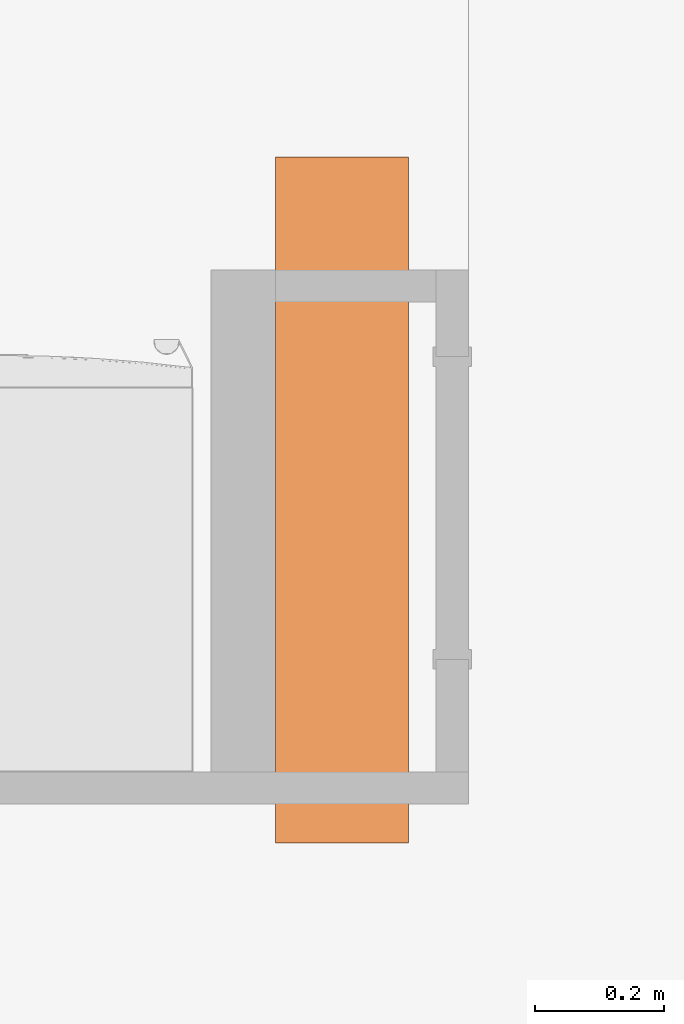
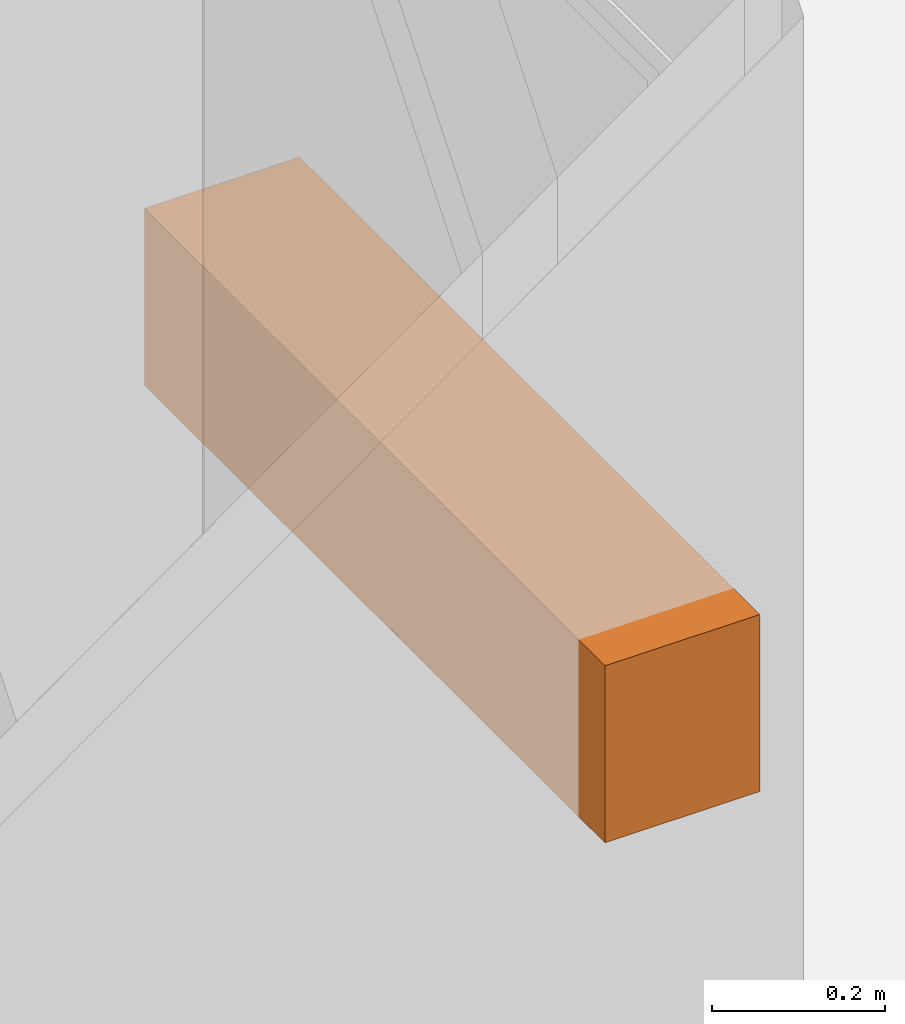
# One storey, part 81 of 81: 1 proxy.
"""IFC2X3 building model written with IfcOpenShell, lengths in metres."""

from ifc_helpers import new_model, entity, si_unit, converted_unit, derived_unit, direction, frame, origin, place, context, subcontext, project, spatial, faceted_brep, source, transform, mapped, material, type_object, type_shapes, element, save


model = new_model("IFC2X3")

# Units and contexts
model_context = context("Model", 3, precision=1e-05, world=origin(), true_north=direction((6.12303176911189e-17, 1.0)))
body_context = subcontext(model_context, "Body", "Model", "MODEL_VIEW")
ifc_project = project(units=[si_unit("LENGTHUNIT", "METRE"), si_unit("AREAUNIT", "SQUARE_METRE"), si_unit("VOLUMEUNIT", "CUBIC_METRE"), converted_unit("PLANEANGLEUNIT", "DEGREE", entity("IfcRatioMeasure", 0.0174532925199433), si_unit("PLANEANGLEUNIT", "RADIAN"), dimensions=[0, 0, 0, 0, 0, 0, 0]), si_unit("MASSUNIT", "GRAM", prefix="KILO"), derived_unit("MASSDENSITYUNIT", [(si_unit("MASSUNIT", "GRAM", prefix="KILO"), 1), (si_unit("LENGTHUNIT", "METRE"), -3)]), derived_unit("MOMENTOFINERTIAUNIT", [(si_unit("LENGTHUNIT", "METRE"), 4)]), si_unit("TIMEUNIT", "SECOND"), si_unit("FREQUENCYUNIT", "HERTZ"), si_unit("THERMODYNAMICTEMPERATUREUNIT", "DEGREE_CELSIUS"), derived_unit("THERMALTRANSMITTANCEUNIT", [(si_unit("MASSUNIT", "GRAM", prefix="KILO"), 1), (si_unit("THERMODYNAMICTEMPERATUREUNIT", "KELVIN"), -1), (si_unit("TIMEUNIT", "SECOND"), -3)]), derived_unit("VOLUMETRICFLOWRATEUNIT", [(si_unit("LENGTHUNIT", "METRE"), 3), (si_unit("TIMEUNIT", "SECOND"), -1)]), si_unit("ELECTRICCURRENTUNIT", "AMPERE"), si_unit("ELECTRICVOLTAGEUNIT", "VOLT"), si_unit("POWERUNIT", "WATT"), si_unit("FORCEUNIT", "NEWTON", prefix="KILO"), si_unit("ILLUMINANCEUNIT", "LUX"), si_unit("LUMINOUSFLUXUNIT", "LUMEN"), si_unit("LUMINOUSINTENSITYUNIT", "CANDELA"), derived_unit("USERDEFINED", [(si_unit("MASSUNIT", "GRAM", prefix="KILO"), -1), (si_unit("LENGTHUNIT", "METRE"), -2), (si_unit("TIMEUNIT", "SECOND"), 3), (si_unit("LUMINOUSFLUXUNIT", "LUMEN"), 1)]), derived_unit("LINEARVELOCITYUNIT", [(si_unit("LENGTHUNIT", "METRE"), 1), (si_unit("TIMEUNIT", "SECOND"), -1)]), si_unit("PRESSUREUNIT", "PASCAL"), derived_unit("USERDEFINED", [(si_unit("LENGTHUNIT", "METRE"), -2), (si_unit("MASSUNIT", "GRAM", prefix="KILO"), 1), (si_unit("TIMEUNIT", "SECOND"), -2)]), derived_unit("LINEARFORCEUNIT", [(si_unit("MASSUNIT", "GRAM", prefix="KILO"), 1), (si_unit("LENGTHUNIT", "METRE"), 1), (si_unit("TIMEUNIT", "SECOND"), -2), (si_unit("LENGTHUNIT", "METRE"), -1)]), derived_unit("PLANARFORCEUNIT", [(si_unit("MASSUNIT", "GRAM", prefix="KILO"), 1), (si_unit("LENGTHUNIT", "METRE"), 1), (si_unit("TIMEUNIT", "SECOND"), -2), (si_unit("LENGTHUNIT", "METRE"), -2)])], contexts=[model_context])

# Site, building, storey
site_placement = place(None, origin())
site = spatial("IfcSite", under=ifc_project, at=site_placement, Name="Surface", CompositionType="ELEMENT")
building_placement = place(site_placement, origin())
building = spatial("IfcBuilding", under=site, at=building_placement, CompositionType="ELEMENT")
storey_placement = place(building_placement, origin())
storey = spatial("IfcBuildingStorey", under=building, at=storey_placement, Name="01 RDC", CompositionType="ELEMENT", Elevation=-1.94916083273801e-14)

# Proxy
ifc_material = material(Name="Zone d'installation")
building_element_proxy_type = type_object("IfcBuildingElementProxyType", Name="Electrical_Distribution_Legrand_Coffrets-isolants-Drivia-pour-de-tableaux-electriques-de-1-a-4-rangees-de-18-modules_FR:coffret DRIVIA 18 modules 1 rangée", PredefinedType="NOTDEFINED", material=ifc_material)
shared_shape = source(origin(), body_context, "Body", "Brep", [
    faceted_brep([(-0.159391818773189, -0.0157999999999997, 0.000230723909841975), (-0.159391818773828, 0.0, 0.000230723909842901), (0.0, 0.0, 0.0), (0.0, -0.1035, 0.0), (-0.159391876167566, -0.1035, 0.000230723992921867), (0.159391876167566, -0.1035, 0.000230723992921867), (0.159391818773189, 0.0, 0.000230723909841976), (0.159391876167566, -0.0157999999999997, 0.000230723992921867), (0.159391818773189, -0.0157999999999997, 0.249769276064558), (0.159391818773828, 0.0, 0.249769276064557), (0.0, 0.0, 0.2499999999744), (0.0, -0.1035, 0.2499999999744), (0.159391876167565, -0.1035, 0.249769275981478), (-0.159391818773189, 0.0, 0.249769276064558), (-0.159391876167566, -0.0157999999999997, 0.249769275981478), (-0.159391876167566, -0.1035, 0.249769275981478), (-3.6187750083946e-06, 0.0, 0.00250000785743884), (-0.159388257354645, 0.0, 0.0027307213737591), (-0.159388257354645, -0.101, 0.0027307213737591), (-3.61882808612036e-06, -0.101, 0.00250000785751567), (0.159388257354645, 0.0, 0.00273072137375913), (0.159388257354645, -0.101, 0.00273072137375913), (0.159388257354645, -0.101, 0.247269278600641), (3.61882808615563e-06, -0.101, 0.247499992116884), (3.61877500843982e-06, 0.0, 0.247499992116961), (0.159388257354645, 0.0, 0.247269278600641), (-0.159388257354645, -0.101, 0.247269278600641), (-0.159388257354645, 0.0, 0.247269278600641), (-0.174999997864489, -0.0053499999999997, 0.124998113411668), (-0.174929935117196, -0.0053499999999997, 0.0321546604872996), (-0.177429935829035, -0.0053499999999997, 0.0321546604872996), (-0.1775, -0.0053499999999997, 0.1249999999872), (-0.177429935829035, -0.0053499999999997, 0.2178453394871), (-0.174929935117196, -0.0053499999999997, 0.2178453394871), (0.177429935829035, -0.0053499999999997, 0.2178453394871), (0.177499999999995, -0.0053499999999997, 0.1249999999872), (0.17742993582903, -0.0053499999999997, 0.0321546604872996), (0.174929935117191, -0.0053499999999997, 0.0321546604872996), (0.175000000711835, -0.0053499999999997, 0.124998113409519), (0.174929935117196, -0.0053499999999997, 0.2178453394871), (-0.177429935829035, -0.0157999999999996, 0.0321546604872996), (-0.177408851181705, -0.0157999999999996, 0.00421439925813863), (-0.177408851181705, -0.1035, 0.00421439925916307), (-0.1775, -0.1035, 0.1249999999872), (0.177499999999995, -0.1035, 0.1249999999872), (0.1774088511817, -0.1035, 0.0042143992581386), (0.177408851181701, -0.0157999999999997, 0.00421439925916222), (0.17742993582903, -0.0157999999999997, 0.0321546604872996), (0.177429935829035, -0.0157999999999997, 0.2178453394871), (0.177408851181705, -0.0157999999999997, 0.245785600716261), (0.177408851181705, -0.1035, 0.245785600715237), (-0.177429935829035, -0.0157999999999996, 0.2178453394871), (-0.177408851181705, -0.1035, 0.245785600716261), (-0.177408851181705, -0.0157999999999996, 0.245785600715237), (-0.174999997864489, -0.101, 0.124998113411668), (-0.17491008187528, -0.101, 0.00584619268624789), (-0.17491008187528, -0.0157999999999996, 0.00584619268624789), (-0.174929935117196, -0.0157999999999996, 0.0321546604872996), (0.174929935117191, -0.0157999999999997, 0.0321546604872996), (0.174910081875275, -0.0157999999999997, 0.0058461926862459), (0.174910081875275, -0.101, 0.0058461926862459), (0.174999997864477, -0.101, 0.124998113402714), (0.174929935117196, -0.0157999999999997, 0.2178453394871), (0.17491008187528, -0.101, 0.244153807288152), (0.17491008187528, -0.0157999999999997, 0.244153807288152), (-0.174929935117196, -0.0157999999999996, 0.2178453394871), (-0.17491008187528, -0.101, 0.244153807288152), (-0.17491008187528, -0.0157999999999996, 0.244153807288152), (-0.168616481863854, -0.1035, 0.248754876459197), (-0.168616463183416, -0.0157999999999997, 0.248754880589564), (0.168616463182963, -0.0157999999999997, 0.248754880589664), (0.168616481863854, -0.1035, 0.248754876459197), (0.168616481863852, -0.1035, 0.0012451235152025), (0.168616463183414, -0.0157999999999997, 0.00124511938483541), (-0.168616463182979, -0.0157999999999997, 0.00124511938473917), (-0.168616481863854, -0.1035, 0.00124512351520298), (-0.167304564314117, -0.0157999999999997, 0.00352330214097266), (-0.15939181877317, -0.0157999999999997, 0.00273072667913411), (0.167304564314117, -0.0157999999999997, 0.246476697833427), (0.15939181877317, -0.0157999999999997, 0.247269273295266), (0.15939181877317, -0.0157999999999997, 0.00273072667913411), (0.167304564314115, -0.0157999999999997, 0.00352330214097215), (-0.15939181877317, -0.0157999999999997, 0.247269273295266), (-0.167304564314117, -0.0157999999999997, 0.246476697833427), (-0.167302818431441, -0.101, 0.00352295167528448), (-0.162, -0.101, 0.1018499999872), (-0.162, -0.101, 0.1481499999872), (-0.167302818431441, -0.101, 0.246477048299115), (0.162, -0.101, 0.1481499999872), (0.167302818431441, -0.101, 0.246477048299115), (0.162, -0.101, 0.1018499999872), (0.167302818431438, -0.101, 0.00352295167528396), (-0.162, -0.1035, 0.1018499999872), (0.162, -0.1035, 0.1018499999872), (0.162, -0.1035, 0.1481499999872), (-0.162, -0.1035, 0.1481499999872)], [[[0, 1, 2, 3, 4]], [[5, 3, 2, 6, 7]], [[8, 9, 10, 11, 12]], [[10, 13, 14, 15, 11]], [[16, 17, 18, 19]], [[20, 16, 19, 21]], [[22, 23, 24, 25]], [[23, 26, 27, 24]], [[28, 29, 30, 31, 32, 33]], [[34, 35, 36, 37, 38, 39]], [[24, 27, 13, 10, 9, 25]], [[17, 16, 20, 6, 2, 1]], [[40, 41, 42, 43, 31, 30]], [[44, 45, 46, 47, 36, 35]], [[35, 34, 48, 49, 50, 44]], [[51, 32, 31, 43, 52, 53]], [[54, 55, 56, 57, 29, 28]], [[58, 59, 60, 61]], [[38, 58, 61]], [[58, 38, 37]], [[62, 39, 38]], [[62, 63, 64]], [[62, 61, 63]], [[61, 62, 38]], [[28, 33, 65, 54]], [[66, 54, 65]], [[67, 66, 65]], [[52, 68, 53]], [[53, 68, 69]], [[69, 15, 14]], [[15, 69, 68]], [[12, 70, 8]], [[70, 12, 71]], [[71, 50, 49]], [[71, 49, 70]], [[46, 45, 72]], [[46, 72, 73]], [[73, 5, 7]], [[5, 73, 72]], [[0, 4, 74]], [[74, 4, 75]], [[75, 42, 41]], [[75, 41, 74]], [[0, 74, 41, 40, 57, 56, 76, 77]], [[48, 62, 64, 78, 79, 8, 70, 49]], [[46, 73, 7, 80, 81, 59, 58, 47]], [[82, 83, 67, 65, 51, 53, 69, 14]], [[17, 1, 0]], [[0, 77, 17]], [[57, 40, 30, 29]], [[47, 58, 37, 36]], [[8, 25, 9]], [[25, 8, 79]], [[34, 39, 62, 48]], [[33, 32, 51, 65]], [[80, 6, 20]], [[6, 80, 7]], [[13, 27, 82]], [[82, 14, 13]], [[18, 84, 55]], [[55, 85, 18]], [[19, 18, 85]], [[54, 85, 55]], [[86, 85, 54]], [[86, 54, 66]], [[86, 66, 26]], [[87, 26, 66]], [[86, 26, 23]], [[86, 23, 88]], [[88, 23, 22]], [[88, 22, 63]], [[22, 89, 63]], [[61, 88, 63]], [[88, 61, 90]], [[90, 61, 60]], [[60, 21, 90]], [[91, 21, 60]], [[21, 19, 90]], [[19, 85, 90]], [[42, 75, 4]], [[4, 92, 42]], [[42, 92, 43]], [[92, 4, 3]], [[3, 93, 92]], [[93, 3, 5]], [[93, 5, 45]], [[45, 5, 72]], [[45, 44, 93]], [[93, 44, 94]], [[50, 94, 44]], [[50, 12, 94]], [[50, 71, 12]], [[12, 11, 94]], [[95, 94, 11]], [[11, 15, 95]], [[15, 52, 95]], [[52, 15, 68]], [[52, 43, 95]], [[43, 92, 95]], [[90, 85, 92, 93]], [[95, 92, 85, 86]], [[88, 90, 93, 94]], [[95, 86, 88, 94]]]),
    faceted_brep([(0.159391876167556, -0.0157999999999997, 0.0321546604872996), (0.159391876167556, -0.0157999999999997, 0.000230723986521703), (0.168616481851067, -0.0157999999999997, 0.00124512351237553), (0.17740885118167, -0.0157999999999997, 0.00421439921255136), (0.177429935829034, -0.0157999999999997, 0.0321546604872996), (0.159391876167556, -0.0157999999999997, 0.249769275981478), (0.159391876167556, -0.0157999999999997, 0.2178453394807), (0.177429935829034, -0.0157999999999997, 0.2178453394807), (0.177408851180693, -0.0157999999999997, 0.245785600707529), (0.168616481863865, -0.0157999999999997, 0.248754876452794), (0.177429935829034, -0.00534999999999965, 0.0321546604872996), (0.159391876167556, -0.00534999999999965, 0.0321546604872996), (0.177408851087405, -0.00534999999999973, 0.245785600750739), (0.17397064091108, -0.00534999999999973, 0.24720103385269), (0.170423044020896, -0.00534999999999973, 0.248314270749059), (0.166792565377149, -0.00534999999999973, 0.249116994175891), (0.163106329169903, -0.00534999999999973, 0.249603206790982), (0.159391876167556, 0.0, 0.249769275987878), (0.159391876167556, -0.00534999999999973, 0.249769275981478), (0.159391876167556, -0.00534999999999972, 0.2178453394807), (0.177429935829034, -0.00534999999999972, 0.2178453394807), (0.177429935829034, 0.0, 0.0321546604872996), (0.177408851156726, 0.0, 0.00421439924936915), (0.168616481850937, 0.0, 0.00124512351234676), (0.159391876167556, 0.0, 0.000230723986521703), (0.159391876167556, 0.0, 0.0032307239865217), (0.127529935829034, 0.0, 0.00323072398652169), (0.127529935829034, 0.0, 0.246769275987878), (0.159391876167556, 0.0, 0.246769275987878), (0.168616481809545, 0.0, 0.248754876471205), (0.177408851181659, 0.0, 0.245785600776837), (0.177429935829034, 0.0, 0.2178453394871), (0.159391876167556, -0.00534999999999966, 0.00323072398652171), (0.127529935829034, -0.00534999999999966, 0.00323072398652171), (0.127529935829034, -0.00534999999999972, 0.246769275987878), (0.159391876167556, -0.00534999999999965, 0.246769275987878)], [[[0, 1, 2, 3, 4]], [[5, 6, 7, 8, 9]], [[10, 11, 0, 4]], [[12, 13, 8]], [[9, 13, 14]], [[13, 9, 8]], [[15, 16, 9]], [[16, 5, 9]], [[5, 16, 17, 18]], [[15, 9, 14]], [[6, 19, 20, 7]], [[21, 22, 23, 24, 25, 26, 27, 28, 17, 29, 30, 31]], [[32, 33, 26, 25]], [[26, 33, 34, 27]], [[28, 27, 34, 35]], [[17, 16, 29]], [[16, 15, 29]], [[13, 12, 30]], [[14, 13, 29]], [[14, 29, 15]], [[29, 13, 30]], [[20, 10, 21, 31]], [[11, 10, 20, 19, 35, 34, 33, 32]], [[8, 7, 20]], [[8, 20, 12]], [[12, 31, 30]], [[31, 12, 20]], [[35, 19, 6, 5, 18, 17, 28]], [[32, 25, 24, 1, 0, 11]], [[10, 22, 21]], [[4, 3, 10]], [[22, 10, 3]], [[1, 24, 23, 2]], [[23, 22, 3]], [[23, 3, 2]]]),
    faceted_brep([(-0.177429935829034, -0.00534999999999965, 0.0321546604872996), (-0.177429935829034, -0.0157999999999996, 0.0321546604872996), (-0.159391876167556, -0.0157999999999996, 0.0321546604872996), (-0.159391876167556, -0.00534999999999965, 0.0321546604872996), (-0.177408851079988, -0.0157999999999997, 0.00421439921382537), (-0.168616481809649, -0.0157999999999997, 0.00124512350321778), (-0.159391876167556, -0.0157999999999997, 0.000230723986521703), (-0.177408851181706, -0.0157999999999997, 0.24578560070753), (-0.177429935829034, -0.0157999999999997, 0.2178453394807), (-0.159391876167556, -0.0157999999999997, 0.2178453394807), (-0.159391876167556, -0.0157999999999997, 0.249769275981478), (-0.168616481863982, -0.0157999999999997, 0.248754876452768), (-0.177429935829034, -0.00534999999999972, 0.2178453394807), (-0.159391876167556, -0.00534999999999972, 0.2178453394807), (-0.159391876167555, -0.00534999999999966, 0.249769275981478), (-0.159391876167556, 0.0, 0.249769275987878), (-0.1631063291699, -0.00534999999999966, 0.249603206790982), (-0.166792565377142, -0.00534999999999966, 0.249116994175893), (-0.170423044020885, -0.00534999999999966, 0.248314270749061), (-0.173970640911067, -0.00534999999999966, 0.247201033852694), (-0.177408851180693, -0.00534999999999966, 0.245785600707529), (-0.159391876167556, 0.0, 0.0032307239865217), (-0.159391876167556, 0.0, 0.000230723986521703), (-0.168616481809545, 0.0, 0.00124512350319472), (-0.177408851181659, 0.0, 0.00421439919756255), (-0.177429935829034, 0.0, 0.0321546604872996), (-0.177429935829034, 0.0, 0.2178453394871), (-0.177408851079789, 0.0, 0.245785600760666), (-0.168616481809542, 0.0, 0.248754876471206), (-0.159391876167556, 0.0, 0.246769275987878), (-0.127529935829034, 0.0, 0.246769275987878), (-0.127529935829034, 0.0, 0.0032307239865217), (-0.159391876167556, -0.00534999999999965, 0.246769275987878), (-0.127529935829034, -0.00534999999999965, 0.246769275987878), (-0.127529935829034, -0.00534999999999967, 0.0032307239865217), (-0.159391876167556, -0.00534999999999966, 0.00323072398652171)], [[[0, 1, 2, 3]], [[1, 4, 5, 6, 2]], [[7, 8, 9, 10, 11]], [[8, 12, 13, 9]], [[14, 15, 16, 10]], [[11, 16, 17]], [[16, 11, 10]], [[18, 19, 11]], [[19, 7, 11]], [[7, 19, 20]], [[18, 11, 17]], [[21, 22, 23, 24, 25, 26, 27, 28, 15, 29, 30, 31]], [[26, 25, 0, 12]], [[27, 19, 28]], [[27, 20, 19]], [[19, 18, 28]], [[17, 16, 28]], [[17, 28, 18]], [[28, 16, 15]], [[30, 29, 32, 33]], [[33, 34, 31, 30]], [[34, 35, 21, 31]], [[13, 12, 0, 3, 35, 34, 33, 32]], [[10, 9, 13, 32, 29, 15, 14]], [[2, 6, 22, 21, 35, 3]], [[12, 8, 7, 20]], [[20, 27, 12]], [[26, 12, 27]], [[4, 23, 5]], [[23, 4, 24]], [[23, 22, 6, 5]], [[25, 24, 0]], [[0, 4, 1]], [[4, 0, 24]]]),
    faceted_brep([(0.532499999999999, -7.13581206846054e-05, 0.25), (-0.532499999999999, -7.13581206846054e-05, 0.25), (-0.532499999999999, -0.207071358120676, 0.25), (0.532499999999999, -0.207071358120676, 0.25), (0.532499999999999, -7.13581206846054e-05, 0.0), (0.532499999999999, -0.207071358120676, 0.0), (-0.532499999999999, -0.207071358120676, 0.0), (-0.532499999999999, -7.13581206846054e-05, 0.0)], [[[0, 1, 2, 3]], [[4, 5, 6, 7]], [[1, 0, 4, 7]], [[2, 1, 7, 6]], [[3, 2, 6, 5]], [[0, 3, 5, 4]]]),
])
type_shapes(building_element_proxy_type, [shared_shape])
proxy_placement = place(storey_placement, frame((8.3915615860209, 1.30653904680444, 0.7), z_axis=(0.0, 0.0, 1.0), x_axis=(0.0, 1.0, 0.0)))
element("IfcBuildingElementProxy", 1, at=proxy_placement, inside=storey, type_object=building_element_proxy_type, material=ifc_material, Name="Electrical_Distribution_Legrand_Coffrets-isolants-Drivia-pour-de-tableaux-electriques-de-1-a-4-rangees-de-18-modules_FR:coffret DRIVIA 18 modules 1 rangée, 0 V, Monophasé Phase, 2 Fils", ObjectType="Electrical_Distribution_Legrand_Coffrets-isolants-Drivia-pour-de-tableaux-electriques-de-1-a-4-rangees-de-18-modules_FR:coffret DRIVIA 18 modules 1 rangée", context=body_context, shape_type="MappedRepresentation", body=[
    mapped(shared_shape, transform((0.0, 0.0, 0.0), scale=1.0)),
])

save(model, "model.ifc")
